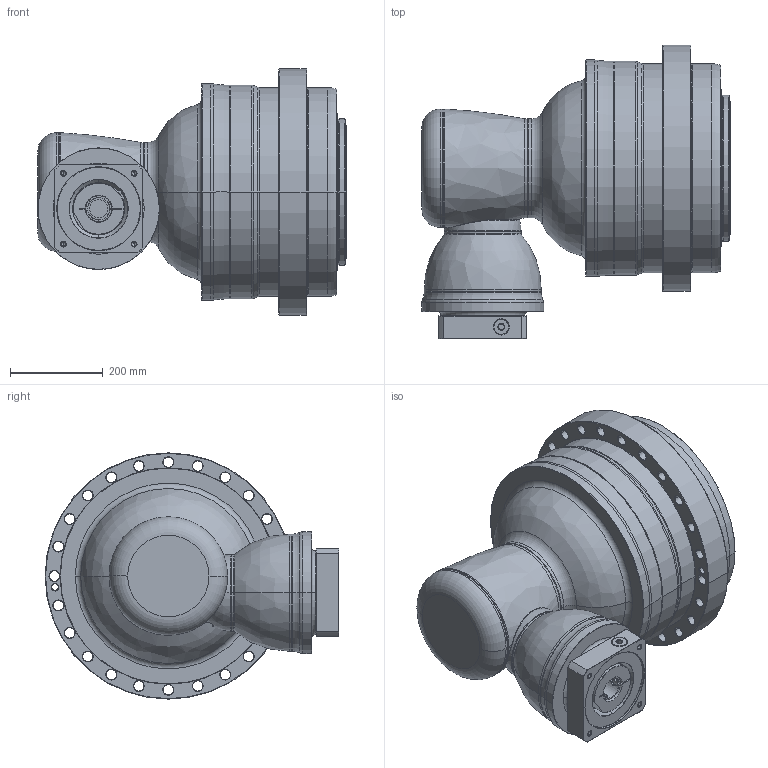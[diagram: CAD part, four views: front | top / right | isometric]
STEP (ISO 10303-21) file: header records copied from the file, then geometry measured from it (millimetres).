
FILE_DESCRIPTION((''),'2;1');
FILE_NAME('APK450_3ST_48-P0409B10201_ASM','2018-11-21T',('D00080'),(''),'PRO/ENGINEER BY PARAMETRIC TECHNOLOGY CORPORATION, 2015240','PRO/ENGINEER BY PARAMETRIC TECHNOLOGY CORPORATION, 2015240','');
FILE_SCHEMA(('CONFIG_CONTROL_DESIGN'));
Length unit declared in the file: millimetre
Products named in the file (13): P1008700002; P1315700001; P1007701001; P1318701301; P1821200001; P0276201003; P0357201103; P1222200001; P0503B00016; P0912753001; P0409B10201; 21711426021; APK450_3ST_48-P0409B10201_ASM
Assembly tree (12 placements, depth 2):
  APK450_3ST_48-P0409B10201_ASM
    P1008700002
    P1315700001
    P1007701001
    P1318701301
    P1821200001
    P0276201003
    P0357201103
    P1222200001
    P0503B00016
    P0912753001
    P0409B10201
    21711426021
Bounding box: 663.5 x 632 x 530 mm (x, y, z)
Volume: 87208910.6 mm3; surface area: 3195956.2 mm2
Topology: 13 solids, 36 shells, 767 faces, 1739 edges, 1040 vertices
Faces by surface type: cylinder 299, cone 224, plane 122, torus 94, bspline 26, sphere 2
Entity records: 29309 total; most frequent: CARTESIAN_POINT 11428, DIRECTION 4120, ORIENTED_EDGE 3312, AXIS2_PLACEMENT_3D 1765, EDGE_CURVE 1703, VERTEX_POINT 1040, CIRCLE 987, EDGE_LOOP 913
